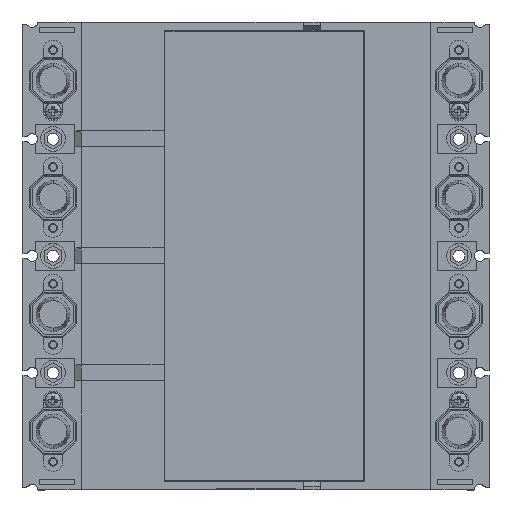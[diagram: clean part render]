
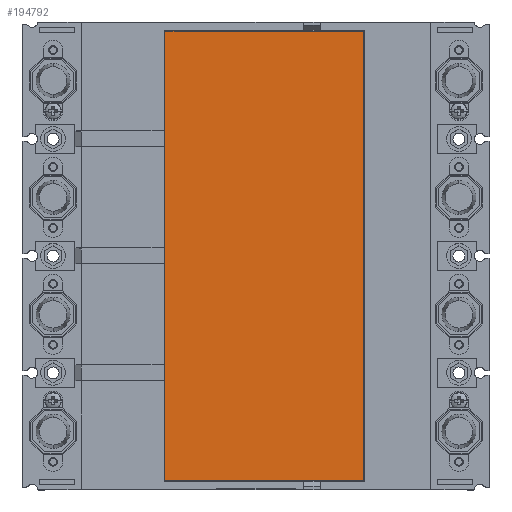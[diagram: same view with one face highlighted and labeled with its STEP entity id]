
A CAD part, top view. The second image highlights one B-rep face of the part: STEP entity #194792.
In plain terms, the highlighted planar face has unit normal (0, 0, 1).
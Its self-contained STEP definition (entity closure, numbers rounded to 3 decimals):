
#69964=DIRECTION('',(0.,-1.,0.));
#69965=VECTOR('',#69964,269.);
#69966=CARTESIAN_POINT('',(64.5,99.5,50.8));
#69967=LINE('',#69966,#69965);
#69968=DIRECTION('',(-1.,0.,0.));
#69969=VECTOR('',#69968,119.);
#69970=CARTESIAN_POINT('',(64.5,-169.5,50.8));
#69971=LINE('',#69970,#69969);
#69972=DIRECTION('',(0.,1.,0.));
#69973=VECTOR('',#69972,269.);
#69974=CARTESIAN_POINT('',(-54.5,-169.5,50.8));
#69975=LINE('',#69974,#69973);
#69976=DIRECTION('',(1.,0.,0.));
#69977=VECTOR('',#69976,119.);
#69978=CARTESIAN_POINT('',(-54.5,99.5,50.8));
#69979=LINE('',#69978,#69977);
#81485=CARTESIAN_POINT('',(64.5,99.5,50.8));
#81486=CARTESIAN_POINT('',(64.5,-169.5,50.8));
#81487=VERTEX_POINT('',#81485);
#81488=VERTEX_POINT('',#81486);
#81489=CARTESIAN_POINT('',(-54.5,-169.5,50.8));
#81490=VERTEX_POINT('',#81489);
#81491=CARTESIAN_POINT('',(-54.5,99.5,50.8));
#81492=VERTEX_POINT('',#81491);
#194781=CARTESIAN_POINT('',(5.,-35.,50.8));
#194782=DIRECTION('',(0.,0.,-1.));
#194783=DIRECTION('',(0.,-1.,0.));
#194784=AXIS2_PLACEMENT_3D('',#194781,#194782,#194783);
#194785=PLANE('',#194784);
#194786=ORIENTED_EDGE('',*,*,#99536,.T.);
#194787=ORIENTED_EDGE('',*,*,#99554,.T.);
#194788=ORIENTED_EDGE('',*,*,#194648,.T.);
#194789=ORIENTED_EDGE('',*,*,#194775,.T.);
#194790=EDGE_LOOP('',(#194786,#194787,#194788,#194789));
#194791=FACE_OUTER_BOUND('',#194790,.F.);
#194792=ADVANCED_FACE('',(#194791),#194785,.F.);
#99536=EDGE_CURVE('',#81487,#81488,#69967,.T.);
#99554=EDGE_CURVE('',#81488,#81490,#69971,.T.);
#194648=EDGE_CURVE('',#81490,#81492,#69975,.T.);
#194775=EDGE_CURVE('',#81492,#81487,#69979,.T.);
